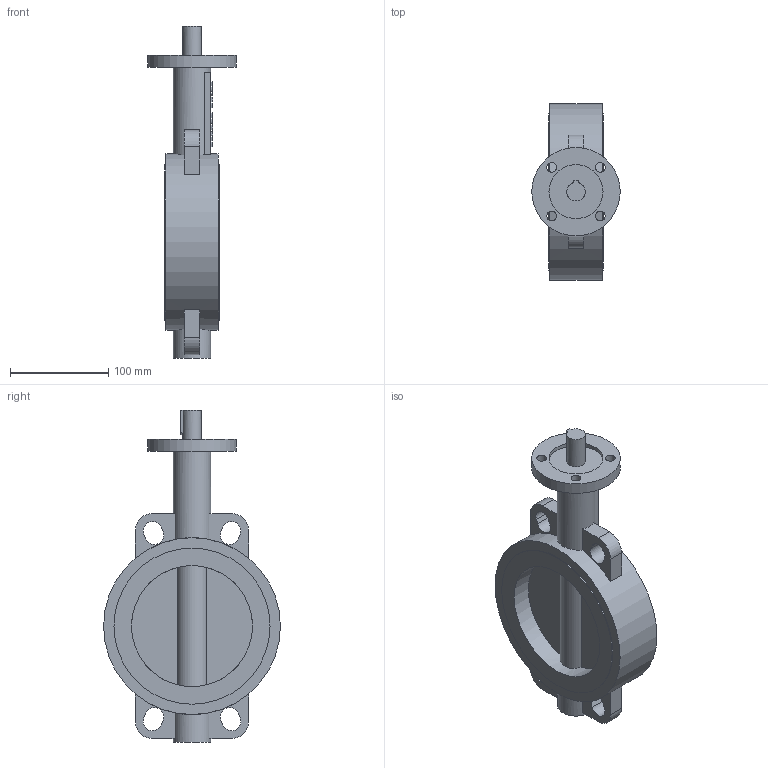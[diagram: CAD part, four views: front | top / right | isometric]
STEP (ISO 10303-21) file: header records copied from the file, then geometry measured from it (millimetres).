
FILE_DESCRIPTION(('STEP AP203'), '1');
FILE_NAME('Çàòâîð 017W.Z(ñòàëü) DN125 PN10_16 áåç èñï. ìåõ-ìà', '', ('UNSPECIFIED'), ('UNSPECIFIED'), 'ASCON STEP Converter 1.6', 'ASCON Math Kernel', '');
FILE_SCHEMA(('CONFIG_CONTROL_DESIGN'));
Length unit declared in the file: millimetre
Bounding box: 90 x 180 x 338 mm (x, y, z)
Volume: 1211437.7 mm3; surface area: 144171.6 mm2
Topology: 1 solids, 1 shells, 629 faces, 1805 edges, 1203 vertices
Faces by surface type: cylinder 429, plane 200
Full cylindrical faces by diameter (mm): 10 x4, 18.9 x1, 38 x2, 55 x1, 90 x1, 123.3 x2, 159 x2, 180 x1
Entity records: 26397 total; most frequent: CARTESIAN_POINT 4006, DIRECTION 3912, ORIENTED_EDGE 3582, EDGE_CURVE 1791, AXIS2_PLACEMENT_3D 1502, VERTEX_POINT 1203, LINE 908, VECTOR 908
